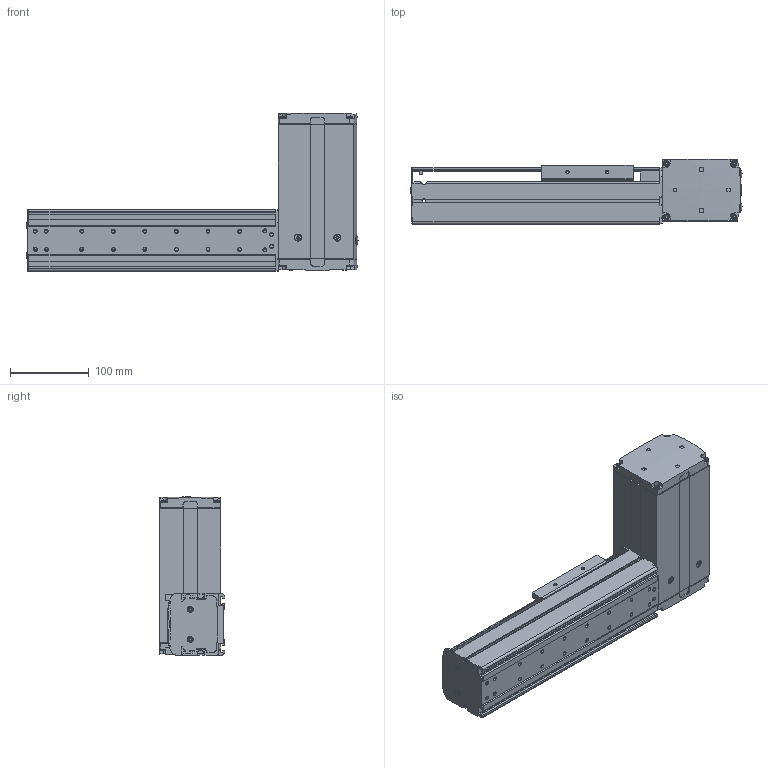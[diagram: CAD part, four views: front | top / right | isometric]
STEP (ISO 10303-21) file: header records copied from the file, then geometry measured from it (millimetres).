
FILE_DESCRIPTION((''),'2;1');
FILE_NAME('BE10_-BR-M_N-10_IGS_PRT','2017-06-18T',(' '),(''),'PRO/ENGINEER BY PARAMETRIC TECHNOLOGY CORPORATION, 2015030','PRO/ENGINEER BY PARAMETRIC TECHNOLOGY CORPORATION, 2015030','');
FILE_SCHEMA(('CONFIG_CONTROL_DESIGN'));
Length unit declared in the file: millimetre
Products named in the file (1): BE10_-BR-M_N-10_IGS_PRT
Bounding box: 420.8 x 82.5 x 200.5 mm (x, y, z)
Volume: 751013 mm3; surface area: 522170.8 mm2
Topology: 3 solids, 98 shells, 1926 faces, 5245 edges, 3427 vertices
Faces by surface type: plane 961, cylinder 794, cone 111, sphere 30, torus 27, bspline 3
Entity records: 62266 total; most frequent: CARTESIAN_POINT 12693, DIRECTION 10492, ORIENTED_EDGE 10030, EDGE_CURVE 5183, AXIS2_PLACEMENT_3D 3689, VERTEX_POINT 3427, VECTOR 3114, LINE 3114
